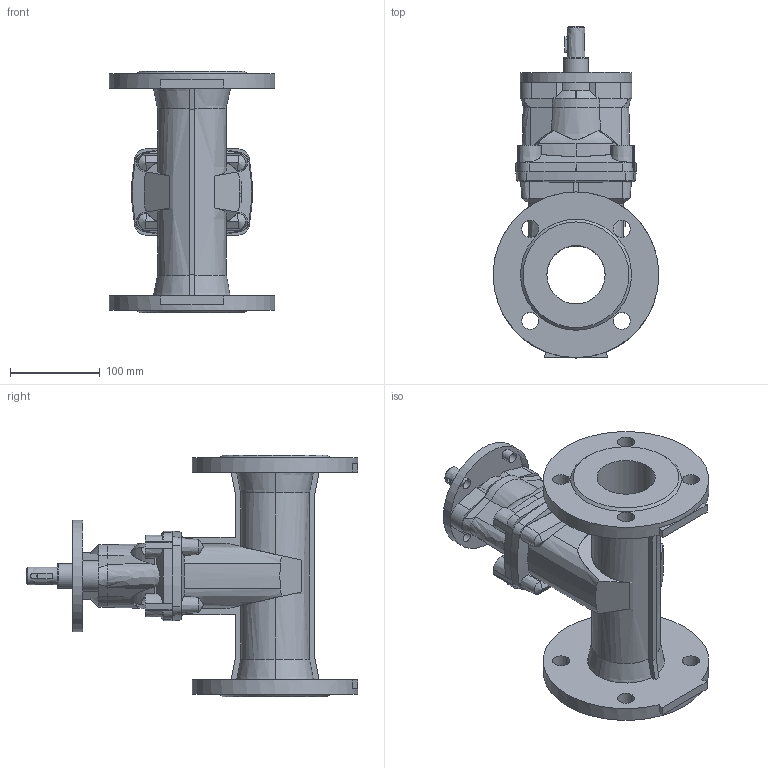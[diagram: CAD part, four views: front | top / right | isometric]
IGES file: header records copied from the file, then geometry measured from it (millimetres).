
Start section: SolidWorks IGES file using analytic representation for surfaces
Global section: file name: \\avksan2\techshare\PBM outline export from Enovia\O_15_72_DN065_X1X_AA0.igs; native system: SolidWorks 2012; preprocessor: SolidWorks 2012; author: pbm; date: 170310.094932; units: millimetre
Bounding box: 185 x 370.5 x 270 mm (x, y, z)
Surface area: 332160.7 mm2 (no closed solid volume)
Topology: 0 solids, 0 shells, 286 faces, 1548 edges, 1503 vertices
Faces by surface type: revolution 155, bspline 131
